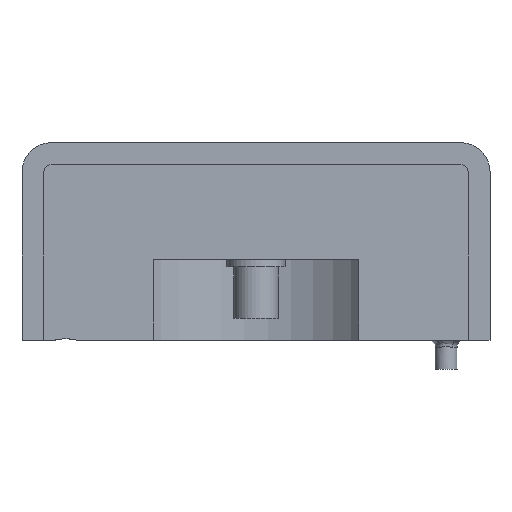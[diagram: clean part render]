
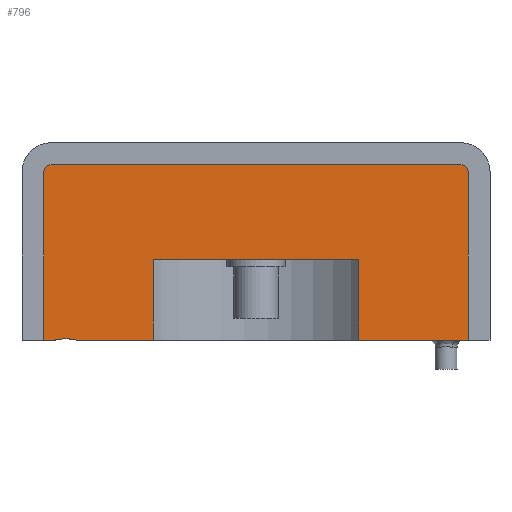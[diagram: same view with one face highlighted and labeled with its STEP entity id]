
A CAD part, front view. The second image highlights one B-rep face of the part: STEP entity #796.
In plain terms, the highlighted planar face has unit normal (0, -1, 0).
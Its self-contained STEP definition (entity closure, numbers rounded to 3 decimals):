
#65 = CARTESIAN_POINT ( 'NONE',  ( -7.04, -6., -5.5 ) ) ;
#95 = CARTESIAN_POINT ( 'NONE',  ( 14.5, -6., 6. ) ) ;
#101 = DIRECTION ( 'NONE',  ( 0., -1., 0. ) ) ;
#153 = VERTEX_POINT ( 'NONE', #2248 ) ;
#158 = CARTESIAN_POINT ( 'NONE',  ( -11., -6., -5.5 ) ) ;
#164 = ORIENTED_EDGE ( 'NONE', *, *, #585, .T. ) ;
#166 = DIRECTION ( 'NONE',  ( 1., 0., 0. ) ) ;
#174 = CARTESIAN_POINT ( 'NONE',  ( 11., -6., -5.5 ) ) ;
#182 = VERTEX_POINT ( 'NONE', #2073 ) ;
#204 = CARTESIAN_POINT ( 'NONE',  ( 7.04, -6., -5.5 ) ) ;
#219 = VECTOR ( 'NONE', #332, 1000. ) ;
#223 = ORIENTED_EDGE ( 'NONE', *, *, #2262, .F. ) ;
#248 = ORIENTED_EDGE ( 'NONE', *, *, #554, .T. ) ;
#257 = CIRCLE ( 'NONE', #922, 0.5 ) ;
#267 = EDGE_LOOP ( 'NONE', ( #1504, #1780, #950, #686, #390, #164, #330, #2079, #1856, #1803, #223, #248, #1625, #2000 ) ) ;
#293 = VERTEX_POINT ( 'NONE', #65 ) ;
#298 = LINE ( 'NONE', #1749, #1383 ) ;
#302 = AXIS2_PLACEMENT_3D ( 'NONE', #1184, #1174, #674 ) ;
#308 = EDGE_CURVE ( 'NONE', #1020, #182, #257, .T. ) ;
#330 = ORIENTED_EDGE ( 'NONE', *, *, #1017, .T. ) ;
#332 = DIRECTION ( 'NONE',  ( -1., 0., 0. ) ) ;
#342 = CARTESIAN_POINT ( 'NONE',  ( -12.449, -6., -5.475 ) ) ;
#347 = EDGE_CURVE ( 'NONE', #1394, #182, #298, .T. ) ;
#349 = CARTESIAN_POINT ( 'NONE',  ( -11., -6., 0. ) ) ;
#360 = CARTESIAN_POINT ( 'NONE',  ( -12.169, -6., -5.5 ) ) ;
#376 = CARTESIAN_POINT ( 'NONE',  ( 13.75, -6., -5.5 ) ) ;
#390 = ORIENTED_EDGE ( 'NONE', *, *, #1172, .T. ) ;
#393 = CARTESIAN_POINT ( 'NONE',  ( -12.311, -6., -5.5 ) ) ;
#409 = VECTOR ( 'NONE', #767, 1000. ) ;
#482 = VERTEX_POINT ( 'NONE', #901 ) ;
#508 = DIRECTION ( 'NONE',  ( 0., 0., -1. ) ) ;
#511 = EDGE_CURVE ( 'NONE', #1621, #1394, #709, .T. ) ;
#554 = EDGE_CURVE ( 'NONE', #1233, #844, #1341, .T. ) ;
#573 = CARTESIAN_POINT ( 'NONE',  ( -12.726, -6., -5.424 ) ) ;
#585 = EDGE_CURVE ( 'NONE', #482, #1540, #1951, .T. ) ;
#674 = DIRECTION ( 'NONE',  ( 0., 0., 1. ) ) ;
#686 = ORIENTED_EDGE ( 'NONE', *, *, #969, .F. ) ;
#709 = LINE ( 'NONE', #158, #1255 ) ;
#767 = DIRECTION ( 'NONE',  ( 0., 0., 1. ) ) ;
#796 = ADVANCED_FACE ( 'NONE', ( #1918 ), #2097, .F. ) ;
#830 = EDGE_CURVE ( 'NONE', #153, #1060, #2274, .T. ) ;
#844 = VERTEX_POINT ( 'NONE', #2283 ) ;
#851 = DIRECTION ( 'NONE',  ( 0., 0., -1. ) ) ;
#856 = CARTESIAN_POINT ( 'NONE',  ( -13.55, -6., -5.5 ) ) ;
#868 = CARTESIAN_POINT ( 'NONE',  ( -11., -6., 6.5 ) ) ;
#885 = LINE ( 'NONE', #868, #925 ) ;
#886 = CARTESIAN_POINT ( 'NONE',  ( 7.04, -6., 0. ) ) ;
#901 = CARTESIAN_POINT ( 'NONE',  ( -7.04, -6., 0. ) ) ;
#922 = AXIS2_PLACEMENT_3D ( 'NONE', #1573, #101, #851 ) ;
#925 = VECTOR ( 'NONE', #2151, 1000. ) ;
#927 = VECTOR ( 'NONE', #1738, 1000. ) ;
#949 = LINE ( 'NONE', #1855, #1913 ) ;
#950 = ORIENTED_EDGE ( 'NONE', *, *, #1273, .T. ) ;
#956 = VECTOR ( 'NONE', #1409, 1000. ) ;
#969 = EDGE_CURVE ( 'NONE', #293, #2179, #1398, .T. ) ;
#981 = CARTESIAN_POINT ( 'NONE',  ( 12.25, -6., -5.5 ) ) ;
#984 = EDGE_CURVE ( 'NONE', #1210, #1191, #1219, .T. ) ;
#991 = EDGE_CURVE ( 'NONE', #1060, #1210, #1042, .T. ) ;
#999 = VECTOR ( 'NONE', #1617, 1000. ) ;
#1010 = CARTESIAN_POINT ( 'NONE',  ( 11., -6., -5.5 ) ) ;
#1013 = EDGE_CURVE ( 'NONE', #844, #1020, #885, .T. ) ;
#1017 = EDGE_CURVE ( 'NONE', #1540, #1191, #1979, .T. ) ;
#1020 = VERTEX_POINT ( 'NONE', #1430 ) ;
#1042 = LINE ( 'NONE', #1243, #956 ) ;
#1056 = DIRECTION ( 'NONE',  ( -1., 0., 0. ) ) ;
#1060 = VERTEX_POINT ( 'NONE', #376 ) ;
#1105 = CARTESIAN_POINT ( 'NONE',  ( -14.5, -6., -5.5 ) ) ;
#1172 = EDGE_CURVE ( 'NONE', #293, #482, #2003, .T. ) ;
#1174 = DIRECTION ( 'NONE',  ( 0., 1., 0. ) ) ;
#1184 = CARTESIAN_POINT ( 'NONE',  ( -11., -6., 1. ) ) ;
#1191 = VERTEX_POINT ( 'NONE', #204 ) ;
#1205 = CARTESIAN_POINT ( 'NONE',  ( -13.831, -6., -5.5 ) ) ;
#1210 = VERTEX_POINT ( 'NONE', #981 ) ;
#1219 = LINE ( 'NONE', #174, #219 ) ;
#1233 = VERTEX_POINT ( 'NONE', #95 ) ;
#1242 = CARTESIAN_POINT ( 'NONE',  ( -13.831, -6., -5.5 ) ) ;
#1243 = CARTESIAN_POINT ( 'NONE',  ( 11., -6., -5.5 ) ) ;
#1255 = VECTOR ( 'NONE', #1056, 1000. ) ;
#1272 = CARTESIAN_POINT ( 'NONE',  ( -12.865, -6., -5.4 ) ) ;
#1273 = EDGE_CURVE ( 'NONE', #1621, #2179, #1887, .T. ) ;
#1341 = CIRCLE ( 'NONE', #1640, 0.5 ) ;
#1383 = VECTOR ( 'NONE', #2299, 1000. ) ;
#1394 = VERTEX_POINT ( 'NONE', #1105 ) ;
#1398 = LINE ( 'NONE', #1783, #999 ) ;
#1409 = DIRECTION ( 'NONE',  ( -1., 0., 0. ) ) ;
#1420 = DIRECTION ( 'NONE',  ( 0., -1., 0. ) ) ;
#1430 = CARTESIAN_POINT ( 'NONE',  ( -14., -6., 6.5 ) ) ;
#1440 = CARTESIAN_POINT ( 'NONE',  ( 7.04, -6., 26.163 ) ) ;
#1451 = CARTESIAN_POINT ( 'NONE',  ( 14., -6., 6. ) ) ;
#1504 = ORIENTED_EDGE ( 'NONE', *, *, #347, .F. ) ;
#1540 = VERTEX_POINT ( 'NONE', #886 ) ;
#1570 = VECTOR ( 'NONE', #508, 1000. ) ;
#1573 = CARTESIAN_POINT ( 'NONE',  ( -14., -6., 6. ) ) ;
#1605 = DIRECTION ( 'NONE',  ( 0., 0., -1. ) ) ;
#1617 = DIRECTION ( 'NONE',  ( -1., 0., 0. ) ) ;
#1621 = VERTEX_POINT ( 'NONE', #1242 ) ;
#1625 = ORIENTED_EDGE ( 'NONE', *, *, #1013, .T. ) ;
#1640 = AXIS2_PLACEMENT_3D ( 'NONE', #1451, #1420, #1605 ) ;
#1738 = DIRECTION ( 'NONE',  ( -1., 0., 0. ) ) ;
#1749 = CARTESIAN_POINT ( 'NONE',  ( -14.5, -6., 1. ) ) ;
#1780 = ORIENTED_EDGE ( 'NONE', *, *, #511, .F. ) ;
#1783 = CARTESIAN_POINT ( 'NONE',  ( -11., -6., -5.5 ) ) ;
#1803 = ORIENTED_EDGE ( 'NONE', *, *, #830, .F. ) ;
#1828 = VECTOR ( 'NONE', #166, 1000. ) ;
#1855 = CARTESIAN_POINT ( 'NONE',  ( 14.5, -6., 1. ) ) ;
#1856 = ORIENTED_EDGE ( 'NONE', *, *, #991, .F. ) ;
#1860 = CARTESIAN_POINT ( 'NONE',  ( -7.04, -6., 26.163 ) ) ;
#1887 = B_SPLINE_CURVE_WITH_KNOTS ( 'NONE', 3,
 ( #1205, #856, #2117, #1272, #573, #342, #393, #1934 ),
 .UNSPECIFIED., .F., .F.,
 ( 4, 2, 2, 4 ),
 ( 0., 0.001, 0.001, 0.002 ),
 .UNSPECIFIED. ) ;
#1913 = VECTOR ( 'NONE', #2191, 1000. ) ;
#1918 = FACE_OUTER_BOUND ( 'NONE', #267, .T. ) ;
#1934 = CARTESIAN_POINT ( 'NONE',  ( -12.169, -6., -5.5 ) ) ;
#1951 = LINE ( 'NONE', #349, #1828 ) ;
#1979 = LINE ( 'NONE', #1440, #1570 ) ;
#2000 = ORIENTED_EDGE ( 'NONE', *, *, #308, .T. ) ;
#2003 = LINE ( 'NONE', #1860, #409 ) ;
#2073 = CARTESIAN_POINT ( 'NONE',  ( -14.5, -6., 6. ) ) ;
#2079 = ORIENTED_EDGE ( 'NONE', *, *, #984, .F. ) ;
#2097 = PLANE ( 'NONE',  #302 ) ;
#2117 = CARTESIAN_POINT ( 'NONE',  ( -13.279, -6., -5.401 ) ) ;
#2151 = DIRECTION ( 'NONE',  ( -1., 0., 0. ) ) ;
#2179 = VERTEX_POINT ( 'NONE', #360 ) ;
#2191 = DIRECTION ( 'NONE',  ( 0., 0., -1. ) ) ;
#2248 = CARTESIAN_POINT ( 'NONE',  ( 14.5, -6., -5.5 ) ) ;
#2262 = EDGE_CURVE ( 'NONE', #1233, #153, #949, .T. ) ;
#2274 = LINE ( 'NONE', #1010, #927 ) ;
#2283 = CARTESIAN_POINT ( 'NONE',  ( 14., -6., 6.5 ) ) ;
#2299 = DIRECTION ( 'NONE',  ( 0., 0., 1. ) ) ;
